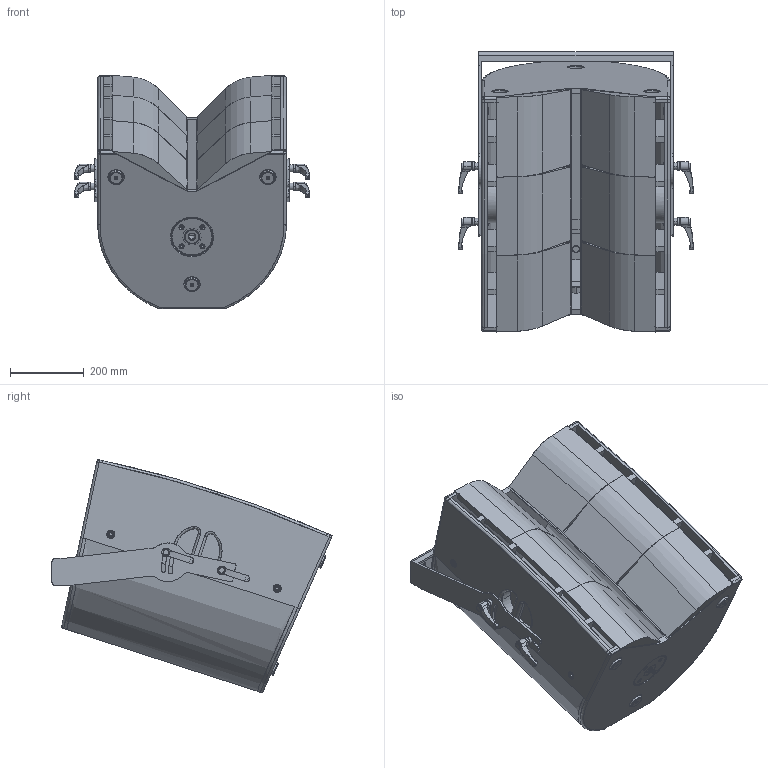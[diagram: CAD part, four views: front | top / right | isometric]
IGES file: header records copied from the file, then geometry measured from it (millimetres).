
Start section: SolidWorks IGES file using analytic representation for surfaces
Global section: file name: C:\Dokumente und Einstellungen\PC_Fabian\Desktop\G3_Bracket-ver01.IGS; native system: SolidWorks 2009; preprocessor: SolidWorks 2009; author: PC_Fabian; date: 121016.131243; units: millimetre
Bounding box: 635.25 x 759.81 x 633.14 mm (x, y, z)
Surface area: 4122356.1 mm2 (no closed solid volume)
Topology: 0 solids, 0 shells, 1074 faces, 14933 edges, 14929 vertices
Faces by surface type: revolution 551, bspline 523
